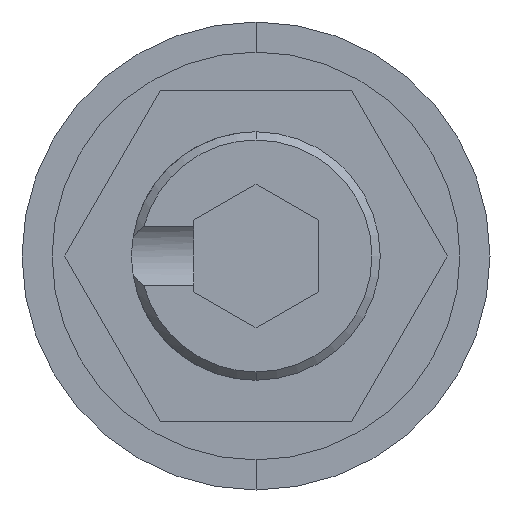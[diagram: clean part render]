
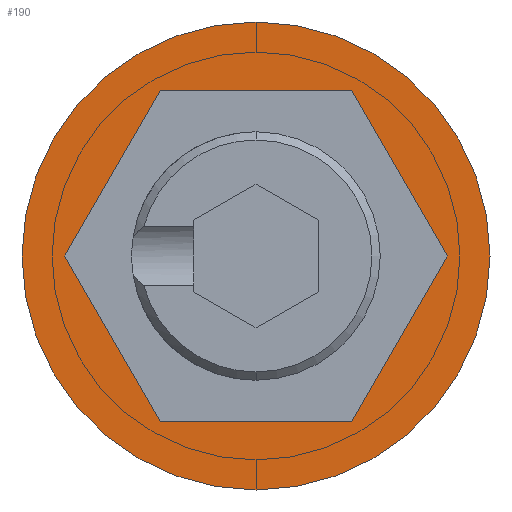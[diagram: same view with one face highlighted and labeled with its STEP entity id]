
A CAD part, front view. The second image highlights one B-rep face of the part: STEP entity #190.
In plain terms, the highlighted planar face has unit normal (0, -1, 0).
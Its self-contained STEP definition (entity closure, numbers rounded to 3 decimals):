
#3 = ORIENTED_EDGE ( 'NONE', *, *, #1337, .F. ) ;
#35 = ORIENTED_EDGE ( 'NONE', *, *, #1780, .T. ) ;
#62 = CARTESIAN_POINT ( 'NONE',  ( 4.619, 0., 0. ) ) ;
#87 = ORIENTED_EDGE ( 'NONE', *, *, #1880, .F. ) ;
#89 = CARTESIAN_POINT ( 'NONE',  ( 0., 0., 5.65 ) ) ;
#104 = VECTOR ( 'NONE', #1462, 1000. ) ;
#162 = DIRECTION ( 'NONE',  ( 0.5, 0., 0.866 ) ) ;
#169 = CARTESIAN_POINT ( 'NONE',  ( 0., 0., 0. ) ) ;
#182 = DIRECTION ( 'NONE',  ( 0., -1., 0. ) ) ;
#190 = ADVANCED_FACE ( 'NONE', ( #1380, #1495 ), #1903, .T. ) ;
#211 = CARTESIAN_POINT ( 'NONE',  ( 2.309, 0., -4. ) ) ;
#219 = DIRECTION ( 'NONE',  ( 0., 0., -1. ) ) ;
#269 = CARTESIAN_POINT ( 'NONE',  ( -2.309, 0., -4. ) ) ;
#334 = EDGE_CURVE ( 'NONE', #1168, #931, #536, .T. ) ;
#344 = LINE ( 'NONE', #508, #1173 ) ;
#391 = EDGE_LOOP ( 'NONE', ( #1700, #35 ) ) ;
#402 = EDGE_CURVE ( 'NONE', #2050, #439, #981, .T. ) ;
#439 = VERTEX_POINT ( 'NONE', #550 ) ;
#482 = CARTESIAN_POINT ( 'NONE',  ( 2.309, 0., 4. ) ) ;
#495 = CIRCLE ( 'NONE', #2118, 5.65 ) ;
#508 = CARTESIAN_POINT ( 'NONE',  ( -2.309, 0., 4. ) ) ;
#509 = CARTESIAN_POINT ( 'NONE',  ( 0., 0., -5.65 ) ) ;
#536 = LINE ( 'NONE', #1161, #104 ) ;
#550 = CARTESIAN_POINT ( 'NONE',  ( -2.309, 0., -4. ) ) ;
#616 = VERTEX_POINT ( 'NONE', #910 ) ;
#628 = DIRECTION ( 'NONE',  ( -0.5, 0., -0.866 ) ) ;
#727 = VECTOR ( 'NONE', #1108, 1000. ) ;
#735 = ORIENTED_EDGE ( 'NONE', *, *, #1846, .F. ) ;
#758 = VECTOR ( 'NONE', #841, 1000. ) ;
#797 = VERTEX_POINT ( 'NONE', #89 ) ;
#841 = DIRECTION ( 'NONE',  ( 0.5, 0., -0.866 ) ) ;
#886 = LINE ( 'NONE', #1247, #1717 ) ;
#897 = AXIS2_PLACEMENT_3D ( 'NONE', #169, #182, #219 ) ;
#910 = CARTESIAN_POINT ( 'NONE',  ( 2.309, 0., -4. ) ) ;
#931 = VERTEX_POINT ( 'NONE', #482 ) ;
#968 = CARTESIAN_POINT ( 'NONE',  ( -2.309, 0., 4. ) ) ;
#981 = LINE ( 'NONE', #1684, #758 ) ;
#1010 = ORIENTED_EDGE ( 'NONE', *, *, #1339, .F. ) ;
#1012 = AXIS2_PLACEMENT_3D ( 'NONE', #1238, #1836, #1789 ) ;
#1108 = DIRECTION ( 'NONE',  ( 1., 0., 0. ) ) ;
#1128 = DIRECTION ( 'NONE',  ( -1., 0., 0. ) ) ;
#1145 = VERTEX_POINT ( 'NONE', #968 ) ;
#1154 = EDGE_CURVE ( 'NONE', #1421, #797, #1567, .T. ) ;
#1161 = CARTESIAN_POINT ( 'NONE',  ( 4.619, 0., 0. ) ) ;
#1168 = VERTEX_POINT ( 'NONE', #62 ) ;
#1173 = VECTOR ( 'NONE', #628, 1000. ) ;
#1228 = LINE ( 'NONE', #211, #2030 ) ;
#1232 = ORIENTED_EDGE ( 'NONE', *, *, #334, .F. ) ;
#1238 = CARTESIAN_POINT ( 'NONE',  ( 0., 0., 0. ) ) ;
#1247 = CARTESIAN_POINT ( 'NONE',  ( 2.309, 0., 4. ) ) ;
#1337 = EDGE_CURVE ( 'NONE', #616, #1168, #1228, .T. ) ;
#1339 = EDGE_CURVE ( 'NONE', #1145, #2050, #344, .T. ) ;
#1362 = EDGE_LOOP ( 'NONE', ( #87, #1908, #1010, #735, #1232, #3 ) ) ;
#1380 = FACE_BOUND ( 'NONE', #1362, .T. ) ;
#1387 = CARTESIAN_POINT ( 'NONE',  ( -4.619, 0., 0. ) ) ;
#1421 = VERTEX_POINT ( 'NONE', #509 ) ;
#1462 = DIRECTION ( 'NONE',  ( -0.5, 0., 0.866 ) ) ;
#1495 = FACE_OUTER_BOUND ( 'NONE', #391, .T. ) ;
#1567 = CIRCLE ( 'NONE', #897, 5.65 ) ;
#1597 = LINE ( 'NONE', #269, #727 ) ;
#1684 = CARTESIAN_POINT ( 'NONE',  ( -4.619, 0., 0. ) ) ;
#1700 = ORIENTED_EDGE ( 'NONE', *, *, #1154, .T. ) ;
#1717 = VECTOR ( 'NONE', #1128, 1000. ) ;
#1730 = CARTESIAN_POINT ( 'NONE',  ( 0., 0., 0. ) ) ;
#1780 = EDGE_CURVE ( 'NONE', #797, #1421, #495, .T. ) ;
#1789 = DIRECTION ( 'NONE',  ( 0., 0., -1. ) ) ;
#1836 = DIRECTION ( 'NONE',  ( 0., -1., 0. ) ) ;
#1846 = EDGE_CURVE ( 'NONE', #931, #1145, #886, .T. ) ;
#1880 = EDGE_CURVE ( 'NONE', #439, #616, #1597, .T. ) ;
#1903 = PLANE ( 'NONE',  #1012 ) ;
#1905 = DIRECTION ( 'NONE',  ( 0., -1., 0. ) ) ;
#1908 = ORIENTED_EDGE ( 'NONE', *, *, #402, .F. ) ;
#2022 = DIRECTION ( 'NONE',  ( 0., 0., -1. ) ) ;
#2030 = VECTOR ( 'NONE', #162, 1000. ) ;
#2050 = VERTEX_POINT ( 'NONE', #1387 ) ;
#2118 = AXIS2_PLACEMENT_3D ( 'NONE', #1730, #1905, #2022 ) ;
